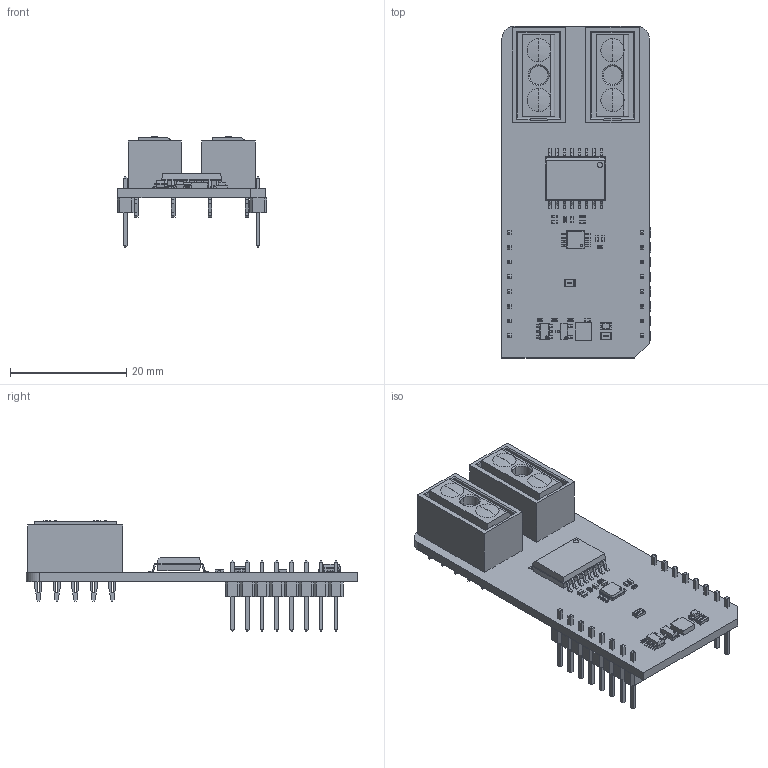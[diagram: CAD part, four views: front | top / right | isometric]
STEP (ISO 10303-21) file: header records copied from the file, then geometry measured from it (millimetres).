
FILE_DESCRIPTION(('Open CASCADE Model'),'2;1');
FILE_NAME('Open CASCADE Shape Model','2025-11-17T10:35:34',('Author'),( 'Open CASCADE'),'Open CASCADE STEP processor 7.5','Open CASCADE 7.5' ,'Unknown');
FILE_SCHEMA(('AUTOMOTIVE_DESIGN { 1 0 10303 214 1 1 1 1 }'));
Length unit declared in the file: millimetre
Products named in the file (48): PCB; Board; Open CASCADE STEP translator 7.5 1.1.1; U3; ISO1450BDWR; R7; User Library-R_0402; R5; C4; User Library-SMD CAPACITOR0402; IP-; Zpower molex 50A; Open CASCADE STEP translator 7.5 1.6.1.1; Open CASCADE STEP translator 7.5 1.6.1.2; IP+; C6; C7; C2; MBD1; Header 1x8; Free-Models; 1240637040; User_Library-PinHeaderX5-1_PinHeaderX5_Body_1; User_Library-PinHeaderX5-1_PinHeaderX5_Pins_1; R3; R1; User Library-R_0805; LD1; led_0805_green; JP1; R6; C5; R4; Q1; SOT23-3; U1; 7708305888; Extruded; U2; User Library-SOT23-6-2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
Assembly tree (69 placements, depth 7):
  PCB
    Board
      Open CASCADE STEP translator 7.5 1.1.1
    U3
      ISO1450BDWR
    R7
      User Library-R_0402
    R5
      User Library-R_0402
    C4
      User Library-SMD CAPACITOR0402
    IP-
      Zpower molex 50A
        Open CASCADE STEP translator 7.5 1.6.1.1
        Open CASCADE STEP translator 7.5 1.6.1.2
    IP+
      Zpower molex 50A
        Open CASCADE STEP translator 7.5 1.6.1.1
        Open CASCADE STEP translator 7.5 1.6.1.2
    C6
      User Library-SMD CAPACITOR0402
    C7
      User Library-SMD CAPACITOR0402
    C2
      User Library-SMD CAPACITOR0402
    MBD1
      Header 1x8  x2
        PCB
          Free-Models
            1240637040  x2
              User_Library-PinHeaderX5-1_PinHeaderX5_Body_1
              User_Library-PinHeaderX5-1_PinHeaderX5_Pins_1
    R3
      User Library-R_0402
    R1
      User Library-R_0805
    LD1
      led_0805_green
    JP1
      User Library-R_0805
    R6
      User Library-R_0402
    C5
      User Library-SMD CAPACITOR0402
    R4
      User Library-R_0402
    Q1
      SOT23-3
    U1
      7708305888
        Extruded
    U2
      User Library-SOT23-6-2
    C1
      User Library-SMD CAPACITOR0402
    C3
      User Library-SMD CAPACITOR0402
    R2
      User Library-R_0402
    U4
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Bounding box: 25.78 x 57.15 x 19.06 mm (x, y, z)
Volume: 5256.9 mm3; surface area: 7777.7 mm2
Topology: 81 solids, 81 shells, 2555 faces, 6571 edges, 4274 vertices
Faces by surface type: plane 1930, cylinder 309, bspline 240, sphere 72, cone 4
Entity records: 40881 total; most frequent: CARTESIAN_POINT 10218, ORIENTED_EDGE 5552, DIRECTION 5220, EDGE_CURVE 2776, LINE 2296, VECTOR 2296, VERTEX_POINT 1800, AXIS2_PLACEMENT_3D 1462
